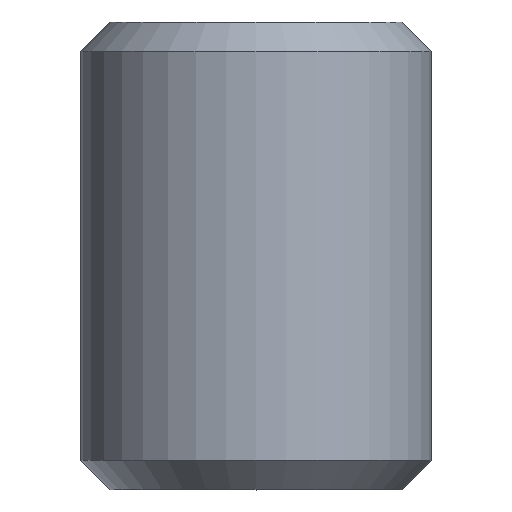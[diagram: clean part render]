
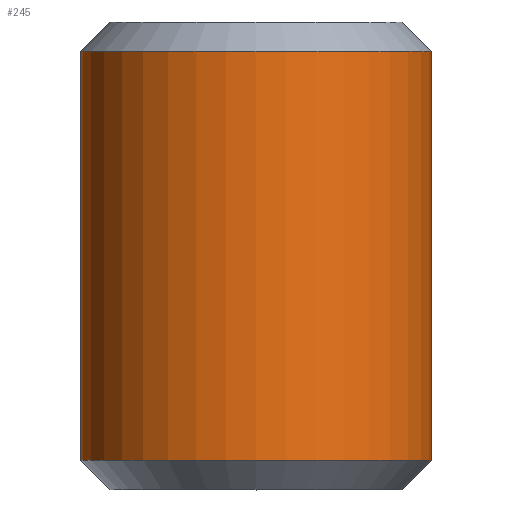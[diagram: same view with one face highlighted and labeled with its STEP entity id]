
A CAD part, top view. The second image highlights one B-rep face of the part: STEP entity #245.
In plain terms, the highlighted cylindrical face has radius 3 mm (diameter 6 mm), a partial arc.
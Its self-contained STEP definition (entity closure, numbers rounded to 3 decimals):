
#44=CARTESIAN_POINT('',(0.,0.5,0.));
#45=DIRECTION('',(0.,1.,0.));
#46=DIRECTION('',(-1.,0.,0.));
#47=AXIS2_PLACEMENT_3D('',#44,#45,#46);
#53=DIRECTION('',(0.,1.,0.));
#54=VECTOR('',#53,7.);
#55=CARTESIAN_POINT('',(-3.,0.5,0.));
#56=LINE('',#55,#54);
#57=DIRECTION('',(0.,1.,0.));
#58=VECTOR('',#57,7.);
#59=CARTESIAN_POINT('',(3.,0.5,0.));
#60=LINE('',#59,#58);
#80=CARTESIAN_POINT('',(0.,7.5,0.));
#81=DIRECTION('',(0.,1.,0.));
#82=DIRECTION('',(-1.,0.,0.));
#83=AXIS2_PLACEMENT_3D('',#80,#81,#82);
#165=CARTESIAN_POINT('',(3.,0.5,0.));
#166=CARTESIAN_POINT('',(-3.,0.5,0.));
#167=VERTEX_POINT('',#165);
#168=VERTEX_POINT('',#166);
#173=CARTESIAN_POINT('',(3.,7.5,0.));
#174=CARTESIAN_POINT('',(-3.,7.5,0.));
#175=VERTEX_POINT('',#173);
#176=VERTEX_POINT('',#174);
#231=CARTESIAN_POINT('',(0.,0.,0.));
#232=DIRECTION('',(0.,1.,0.));
#233=DIRECTION('',(1.,0.,0.));
#234=AXIS2_PLACEMENT_3D('',#231,#232,#233);
#235=CYLINDRICAL_SURFACE('',#234,3.);
#236=ORIENTED_EDGE('',*,*,#225,.F.);
#238=ORIENTED_EDGE('',*,*,#237,.T.);
#240=ORIENTED_EDGE('',*,*,#239,.T.);
#242=ORIENTED_EDGE('',*,*,#241,.F.);
#243=EDGE_LOOP('',(#236,#238,#240,#242));
#244=FACE_OUTER_BOUND('',#243,.F.);
#245=ADVANCED_FACE('',(#244),#235,.T.);
#48=CIRCLE('',#47,3.);
#84=CIRCLE('',#83,3.);
#225=EDGE_CURVE('',#168,#167,#48,.T.);
#237=EDGE_CURVE('',#168,#176,#56,.T.);
#239=EDGE_CURVE('',#176,#175,#84,.T.);
#241=EDGE_CURVE('',#167,#175,#60,.T.);
